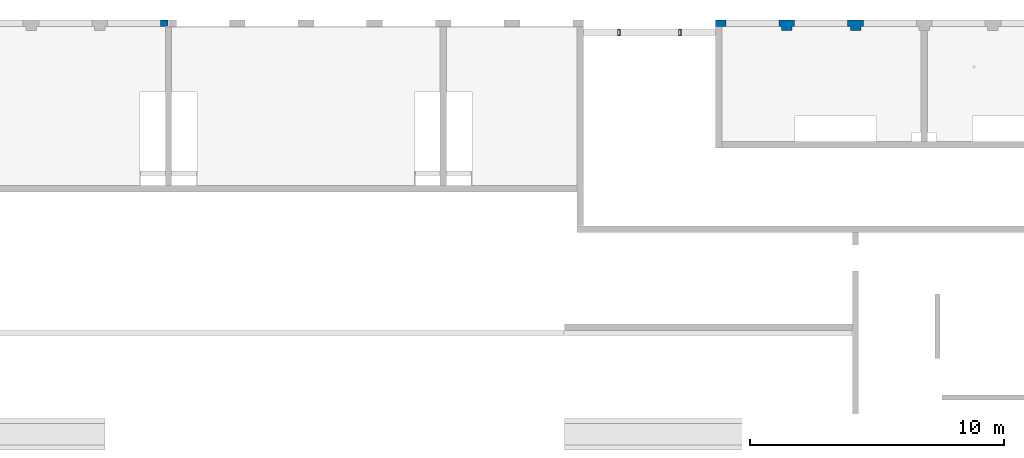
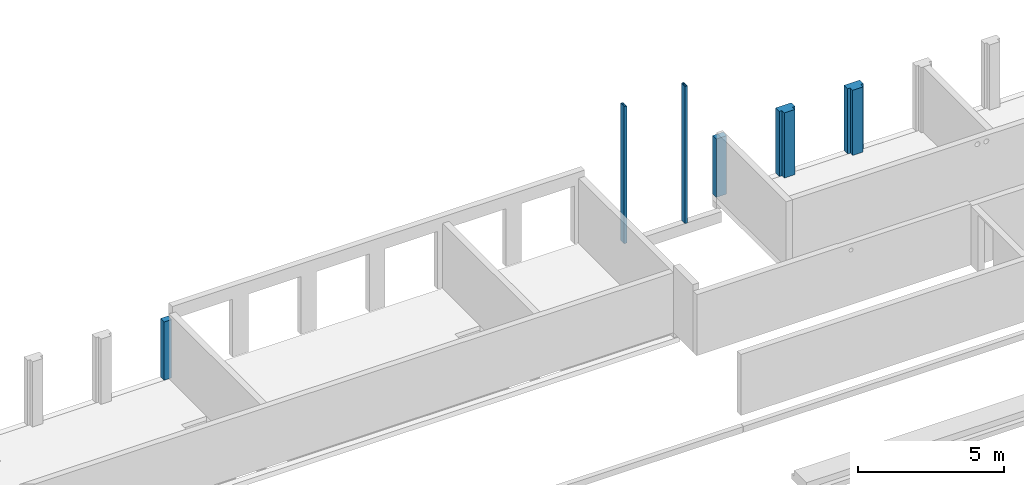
# One storey, part 2 of 18: 6 columns.
"""IFC2X3 building model written with IfcOpenShell, lengths in millimetres."""

from ifc_helpers import new_model, entity, si_unit, converted_unit, derived_unit, direction, frame, frame_2d, origin, origin_2d_with_axis, place, context, subcontext, project, spatial, polyline, circle_curve, parameter, trimmed, segment, composite_curve, rectangle, outline, extrude, source, transform, mapped, material, type_object, type_shapes, element, save


model = new_model("IFC2X3")

# Units and contexts
model_context = context("Model", 3, precision=0.01, world=origin(), true_north=direction((6.12303176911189e-17, 1.0)))
body_context = subcontext(model_context, "Body", "Model", "MODEL_VIEW")
ifc_project = project(units=[si_unit("LENGTHUNIT", "METRE", prefix="MILLI"), si_unit("AREAUNIT", "SQUARE_METRE"), si_unit("VOLUMEUNIT", "CUBIC_METRE"), converted_unit("PLANEANGLEUNIT", "DEGREE", entity("IfcRatioMeasure", 0.0174532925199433), si_unit("PLANEANGLEUNIT", "RADIAN"), dimensions=[0, 0, 0, 0, 0, 0, 0]), si_unit("MASSUNIT", "GRAM", prefix="KILO"), derived_unit("MASSDENSITYUNIT", [(si_unit("MASSUNIT", "GRAM", prefix="KILO"), 1), (si_unit("LENGTHUNIT", "METRE"), -3)]), si_unit("TIMEUNIT", "SECOND"), si_unit("FREQUENCYUNIT", "HERTZ"), si_unit("THERMODYNAMICTEMPERATUREUNIT", "DEGREE_CELSIUS"), derived_unit("THERMALTRANSMITTANCEUNIT", [(si_unit("MASSUNIT", "GRAM", prefix="KILO"), 1), (si_unit("THERMODYNAMICTEMPERATUREUNIT", "KELVIN"), -1), (si_unit("TIMEUNIT", "SECOND"), -3)]), derived_unit("VOLUMETRICFLOWRATEUNIT", [(si_unit("LENGTHUNIT", "METRE"), 3), (si_unit("TIMEUNIT", "SECOND"), -1)]), si_unit("ELECTRICCURRENTUNIT", "AMPERE"), si_unit("ELECTRICVOLTAGEUNIT", "VOLT"), si_unit("POWERUNIT", "WATT"), si_unit("FORCEUNIT", "NEWTON", prefix="KILO"), si_unit("ILLUMINANCEUNIT", "LUX"), si_unit("LUMINOUSFLUXUNIT", "LUMEN"), si_unit("LUMINOUSINTENSITYUNIT", "CANDELA"), derived_unit("USERDEFINED", [(si_unit("MASSUNIT", "GRAM", prefix="KILO"), -1), (si_unit("LENGTHUNIT", "METRE"), -2), (si_unit("TIMEUNIT", "SECOND"), 3), (si_unit("LUMINOUSFLUXUNIT", "LUMEN"), 1)]), derived_unit("LINEARVELOCITYUNIT", [(si_unit("LENGTHUNIT", "METRE"), 1), (si_unit("TIMEUNIT", "SECOND"), -1)]), si_unit("PRESSUREUNIT", "PASCAL"), derived_unit("USERDEFINED", [(si_unit("LENGTHUNIT", "METRE"), -2), (si_unit("MASSUNIT", "GRAM", prefix="KILO"), 1), (si_unit("TIMEUNIT", "SECOND"), -2)])], contexts=[model_context])

# Site, building, storey
site_placement = place(None, origin())
site = spatial("IfcSite", under=ifc_project, at=site_placement, Name="Default", CompositionType="ELEMENT")
building_placement = place(site_placement, origin())
building = spatial("IfcBuilding", under=site, at=building_placement, Name="niet gebruiken", CompositionType="ELEMENT")
storey_placement = place(building_placement, frame((0.0, 0.0, 3690.0)))
storey = spatial("IfcBuildingStorey", under=building, at=storey_placement, Name="01 eerste verdieping", CompositionType="ELEMENT", Elevation=3690.00000000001)

# Columns
ifc_material_1 = material(Name="NLRS_f2_beton ihwg")
column_type_1 = type_object("IfcColumnType", Name="620x410/105x160/105x160", PredefinedType="COLUMN", material=ifc_material_1)
shared_shape_1 = source(origin(), body_context, "Body", "SweptSolid", [
    extrude(outline(polyline([(-227.499999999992, -310.0), (22.5000000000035, -310.0), (22.5000000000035, -205.0), (182.500000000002, -205.0), (182.500000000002, 205.0), (22.5000000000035, 205.0), (22.5000000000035, 310.0), (-227.499999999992, 310.0), (-227.499999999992, -310.0)])), frame((86400.0, 53028.4999999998, 3600.0), z_axis=(0.0, 0.0, 1.0), x_axis=(0.0, -1.0, 0.0)), (0.0, 0.0, 1.0), 2720.0),
])
type_shapes(column_type_1, [shared_shape_1])
column_1_placement = place(storey_placement, frame((0.0, 0.0, -3690.0)))
element("IfcColumn", 1, at=column_1_placement, inside=storey, type_object=column_type_1, material=ifc_material_1, Name="NLRS_28.11_SCO_TLB_beton kolom ihwg dubbele sponning_gen:620x410/105x160/105x160", ObjectType="620x410/105x160/105x160", context=body_context, shape_type="MappedRepresentation", body=[
    mapped(shared_shape_1, transform((0.0, 0.0, 0.0), scale=1.0)),
])
column_type_2 = type_object("IfcColumnType", Name="620x410/105x160/105x160", PredefinedType="COLUMN", material=ifc_material_1)
shared_shape_2 = source(origin(), body_context, "Body", "SweptSolid", [
    extrude(outline(polyline([(-227.5, -310.0), (22.4999999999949, -310.0), (22.4999999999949, -205.0), (182.499999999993, -205.0), (182.499999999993, 205.0), (22.4999999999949, 205.0), (22.4999999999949, 310.0), (-227.5, 310.0), (-227.5, -310.0)])), frame((83700.0, 53028.4999999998, 3600.0), z_axis=(0.0, 0.0, 1.0), x_axis=(0.0, -1.0, 0.0)), (0.0, 0.0, 1.0), 2720.0),
])
type_shapes(column_type_2, [shared_shape_2])
column_2_placement = place(storey_placement, frame((0.0, 0.0, -3690.0)))
element("IfcColumn", 2, at=column_2_placement, inside=storey, type_object=column_type_2, material=ifc_material_1, Name="NLRS_28.11_SCO_TLB_beton kolom ihwg dubbele sponning_gen:620x410/105x160/105x160", ObjectType="620x410/105x160/105x160", context=body_context, shape_type="MappedRepresentation", body=[
    mapped(shared_shape_2, transform((0.0, 0.0, 0.0), scale=1.0)),
])
column_type_3 = type_object("IfcColumnType", Name="410x250", PredefinedType="COLUMN", material=ifc_material_1)
shared_shape_3 = source(origin(), body_context, "Body", "SweptSolid", [
    extrude(rectangle(XDim=250.000000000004, YDim=409.999999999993, at=origin_2d_with_axis()), frame((81105.0, 53131.0, 3600.0), z_axis=(0.0, 0.0, 1.0), x_axis=(0.0, -1.0, 0.0)), (0.0, 0.0, 1.0), 2440.0),
])
type_shapes(column_type_3, [shared_shape_3])
column_3_placement = place(storey_placement, frame((0.0, 0.0, -3690.0)))
element("IfcColumn", 3, at=column_3_placement, inside=storey, type_object=column_type_3, material=ifc_material_1, Name="NLRS_28.11_SCO_TLB_beton kolom ihwg_gen:410x250", ObjectType="410x250", context=body_context, shape_type="MappedRepresentation", body=[
    mapped(shared_shape_3, transform((0.0, 0.0, 0.0), scale=1.0)),
])
ifc_material_2 = material(Name="NLRS_h2_staal")
column_type_4 = type_object("IfcColumnType", Name="kolom buisprofiel warmgevormd vierkant SHSH_250x100x10", PredefinedType="COLUMN", material=ifc_material_2)
shared_shape_4 = source(origin(), body_context, "Body", "SweptSolid", [
    extrude(outline(polyline([(-125.0, -50.0), (125.0, -50.0), (125.0, 50.0), (-125.0, 50.0), (-125.0, -50.0)]), holes=[composite_curve([segment(trimmed(circle_curve(frame_2d((-105.0, -30.0), x_axis=(0.0, 1.0)), 10.0), [parameter(90.0)], [parameter(180.0)], True, "PARAMETER"), False, "CONTINUOUS"), segment(polyline([(-115.0, -30.0), (-115.0, 30.0)]), True, "CONTINUOUS"), segment(trimmed(circle_curve(frame_2d((-105.0, 30.0), x_axis=(0.0, 1.0)), 10.0), [parameter(360.0)], [parameter(90.0)], True, "PARAMETER"), False, "CONTINUOUS"), segment(polyline([(-105.0, 40.0), (105.0, 40.0)]), True, "CONTINUOUS"), segment(trimmed(circle_curve(frame_2d((105.0, 30.0), x_axis=(0.0, 1.0)), 10.0), [parameter(270.0)], [parameter(360.0)], True, "PARAMETER"), False, "CONTINUOUS"), segment(polyline([(115.0, 30.0), (115.0, -30.0)]), True, "CONTINUOUS"), segment(trimmed(circle_curve(frame_2d((105.0, -30.0), x_axis=(0.0, 1.0)), 10.0), [parameter(180.0)], [parameter(270.0)], True, "PARAMETER"), False, "CONTINUOUS"), segment(polyline([(105.0, -40.0), (-105.0, -40.0)]), True, "CONTINUOUS")], self_intersect=False)]), frame((0.0, 0.0, 3235.0), z_axis=(0.0, 0.0, 1.0), x_axis=(0.0, -1.0, 0.0)), (0.0, 0.0, 1.0), 5729.99999999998),
])
type_shapes(column_type_4, [shared_shape_4])
for number, where, z_axis, x_axis, name in (
    (4, (77100.0, 52764.5000000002, -3690.0), (0.0, 0.0, 1.0), (-1.0, 0.0, 0.0), "NLRS_28.11_SCO_TLB_stalen kolom buisprofiel warmgevormd vierkant_gen:kolom buisprofiel warmgevormd vierkant SHSH_250x100x10"),
    (5, (79500.0, 52764.5000000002, -3690.0), (0.0, 0.0, 1.0), (-1.0, 0.0, 0.0), "NLRS_28.11_SCO_TLB_stalen kolom buisprofiel warmgevormd vierkant_gen:kolom buisprofiel warmgevormd vierkant SHSH_250x100x10"),
):
    element("IfcColumn", number, at=place(storey_placement, frame(where, z_axis=z_axis, x_axis=x_axis)), inside=storey, type_object=column_type_4, material=ifc_material_2, Name=name, ObjectType="kolom buisprofiel warmgevormd vierkant SHSH_250x100x10", context=body_context, shape_type="MappedRepresentation", body=[
        mapped(shared_shape_4, transform((0.0, 0.0, 0.0), scale=1.0)),
    ])
column_type_5 = type_object("IfcColumnType", Name="290x250", PredefinedType="COLUMN", material=ifc_material_1)
shared_shape_5 = source(origin(), body_context, "Body", "SweptSolid", [
    extrude(rectangle(XDim=250.000000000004, YDim=290.000000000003, at=origin_2d_with_axis()), frame((59235.0, 53131.0, 3600.0), z_axis=(0.0, 0.0, 1.0), x_axis=(0.0, -1.0, 0.0)), (0.0, 0.0, 1.0), 2440.0),
])
type_shapes(column_type_5, [shared_shape_5])
column_4_placement = place(storey_placement, frame((0.0, 0.0, -3690.0)))
element("IfcColumn", 6, at=column_4_placement, inside=storey, type_object=column_type_5, material=ifc_material_1, Name="NLRS_28.11_SCO_TLB_beton kolom ihwg_gen:290x250", ObjectType="290x250", context=body_context, shape_type="MappedRepresentation", body=[
    mapped(shared_shape_5, transform((0.0, 0.0, 0.0), scale=1.0)),
])

save(model, "model.ifc")
